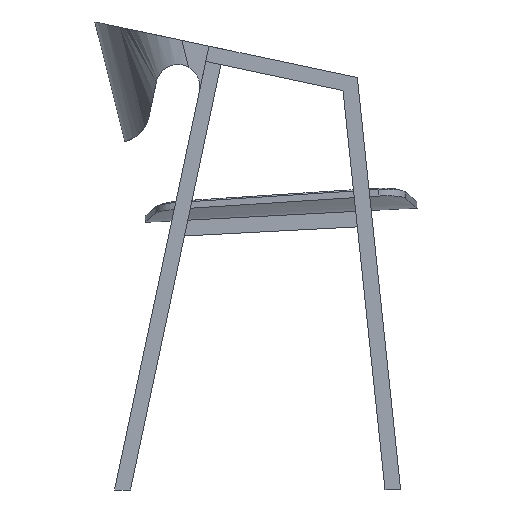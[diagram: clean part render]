
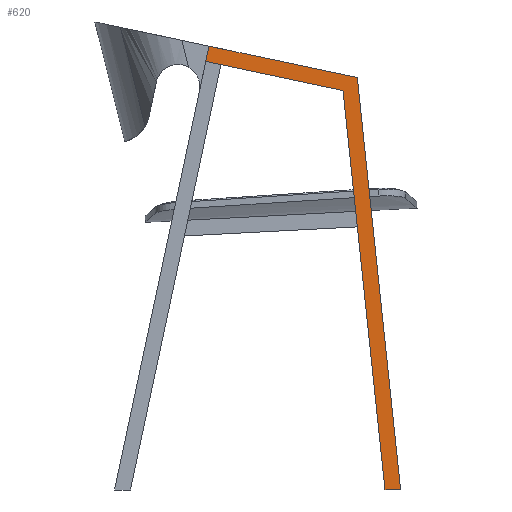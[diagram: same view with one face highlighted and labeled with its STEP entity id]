
A CAD part, left-side view. The second image highlights one B-rep face of the part: STEP entity #620.
In plain terms, the highlighted planar face has unit normal (-1, 0, 0).
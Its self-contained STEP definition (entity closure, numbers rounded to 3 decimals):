
#620=ADVANCED_FACE('',(#798),#2756,.T.);
#798=FACE_OUTER_BOUND('',#976,.T.);
#976=EDGE_LOOP('',(#1213,#1214,#1215,#1216,#1217,#1218));
#1213=ORIENTED_EDGE('',*,*,#1899,.F.);
#1214=ORIENTED_EDGE('',*,*,#1903,.F.);
#1215=ORIENTED_EDGE('',*,*,#1906,.F.);
#1216=ORIENTED_EDGE('',*,*,#1909,.F.);
#1217=ORIENTED_EDGE('',*,*,#1912,.F.);
#1218=ORIENTED_EDGE('',*,*,#1916,.F.);
#1899=EDGE_CURVE('',#2497,#2498,#2280,.T.);
#1903=EDGE_CURVE('',#2501,#2497,#2284,.T.);
#1906=EDGE_CURVE('',#2503,#2501,#2287,.T.);
#1909=EDGE_CURVE('',#2505,#2503,#2290,.T.);
#1912=EDGE_CURVE('',#2507,#2505,#2293,.T.);
#1916=EDGE_CURVE('',#2498,#2507,#2297,.T.);
#2280=B_SPLINE_CURVE_WITH_KNOTS('',1,(#3093,#3094),.UNSPECIFIED.,.F.,.F.,
(2,2),(0.,1.),.UNSPECIFIED.);
#2284=B_SPLINE_CURVE_WITH_KNOTS('',1,(#3101,#3102),.UNSPECIFIED.,.F.,.F.,
(2,2),(0.,1.),.UNSPECIFIED.);
#2287=B_SPLINE_CURVE_WITH_KNOTS('',1,(#3107,#3108),.UNSPECIFIED.,.F.,.F.,
(2,2),(0.,1.),.UNSPECIFIED.);
#2290=B_SPLINE_CURVE_WITH_KNOTS('',1,(#3113,#3114),.UNSPECIFIED.,.F.,.F.,
(2,2),(0.,1.),.UNSPECIFIED.);
#2293=B_SPLINE_CURVE_WITH_KNOTS('',1,(#3119,#3120),.UNSPECIFIED.,.F.,.F.,
(2,2),(0.,1.),.UNSPECIFIED.);
#2297=B_SPLINE_CURVE_WITH_KNOTS('',1,(#3127,#3128),.UNSPECIFIED.,.F.,.F.,
(2,2),(0.,1.),.UNSPECIFIED.);
#2497=VERTEX_POINT('',#3081);
#2498=VERTEX_POINT('',#3082);
#2501=VERTEX_POINT('',#3085);
#2503=VERTEX_POINT('',#3087);
#2505=VERTEX_POINT('',#3089);
#2507=VERTEX_POINT('',#3091);
#2756=PLANE('',#2852);
#2852=AXIS2_PLACEMENT_3D('',#3080,#2933,$);
#2933=DIRECTION('',(-1.,0.,0.));
#3080=CARTESIAN_POINT('',(-230.126,80.73,-18.115));
#3081=CARTESIAN_POINT('',(-230.126,80.73,643.417));
#3082=CARTESIAN_POINT('',(-230.126,75.74,666.893));
#3085=CARTESIAN_POINT('',(-230.126,-131.111,598.389));
#3087=CARTESIAN_POINT('',(-230.126,-195.908,-18.115));
#3089=CARTESIAN_POINT('',(-230.126,-220.04,-18.115));
#3091=CARTESIAN_POINT('',(-230.126,-153.157,618.239));
#3093=CARTESIAN_POINT('',(-230.126,80.73,643.417));
#3094=CARTESIAN_POINT('',(-230.126,75.74,666.893));
#3101=CARTESIAN_POINT('',(-230.126,-131.111,598.389));
#3102=CARTESIAN_POINT('',(-230.126,80.73,643.417));
#3107=CARTESIAN_POINT('',(-230.126,-195.908,-18.115));
#3108=CARTESIAN_POINT('',(-230.126,-131.111,598.389));
#3113=CARTESIAN_POINT('',(-230.126,-220.04,-18.115));
#3114=CARTESIAN_POINT('',(-230.126,-195.908,-18.115));
#3119=CARTESIAN_POINT('',(-230.126,-153.157,618.239));
#3120=CARTESIAN_POINT('',(-230.126,-220.04,-18.115));
#3127=CARTESIAN_POINT('',(-230.126,75.74,666.893));
#3128=CARTESIAN_POINT('',(-230.126,-153.157,618.239));
